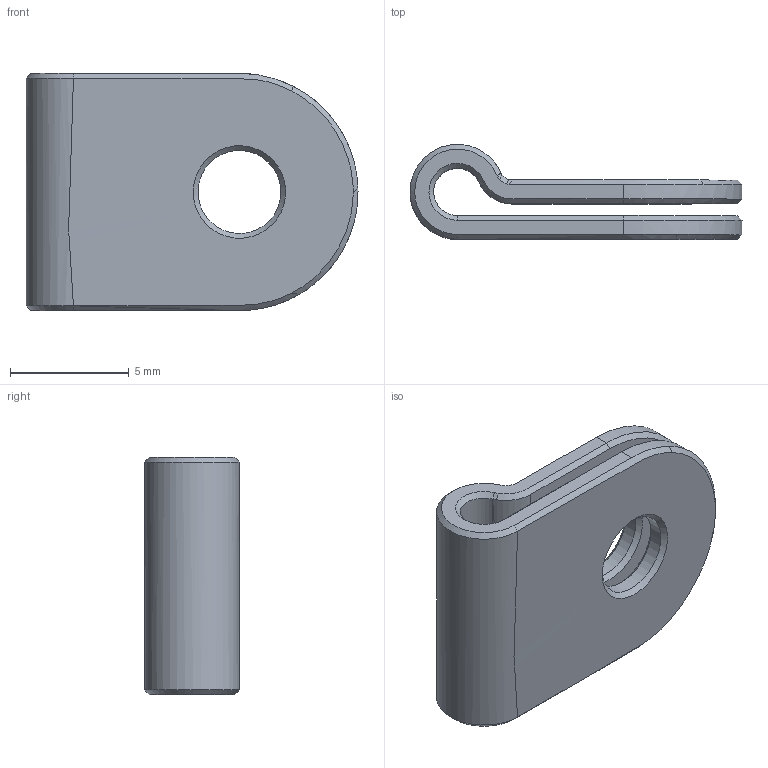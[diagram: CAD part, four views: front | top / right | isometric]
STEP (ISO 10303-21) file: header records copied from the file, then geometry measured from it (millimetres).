
FILE_DESCRIPTION(('Open CASCADE Model'),'2;1');
FILE_NAME('Open CASCADE Shape Model','2026-10-26T18:37:41',('Author'),( 'Open CASCADE'),'Open CASCADE STEP processor 7.9','Open CASCADE 7.9' ,'Unknown');
FILE_SCHEMA(('AUTOMOTIVE_DESIGN { 1 0 10303 214 1 1 1 1 }'));
Length unit declared in the file: millimetre
Products named in the file (1): Open CASCADE STEP translator 7.9 4
Bounding box: 14 x 4 x 10 mm (x, y, z)
Volume: 248.8 mm3; surface area: 575.5 mm2
Topology: 1 solids, 1 shells, 54 faces, 129 edges, 77 vertices
Faces by surface type: plane 25, bspline 12, cylinder 7, sphere 6, cone 4
Full cylindrical faces by diameter (mm): 3.5 x2
Entity records: 7011 total; most frequent: CARTESIAN_POINT 4768, DIRECTION 292, ORIENTED_EDGE 258, PCURVE 258, DEFINITIONAL_REPRESENTATION 258, B_SPLINE_CURVE_WITH_KNOTS 209, LINE 136, VECTOR 136
